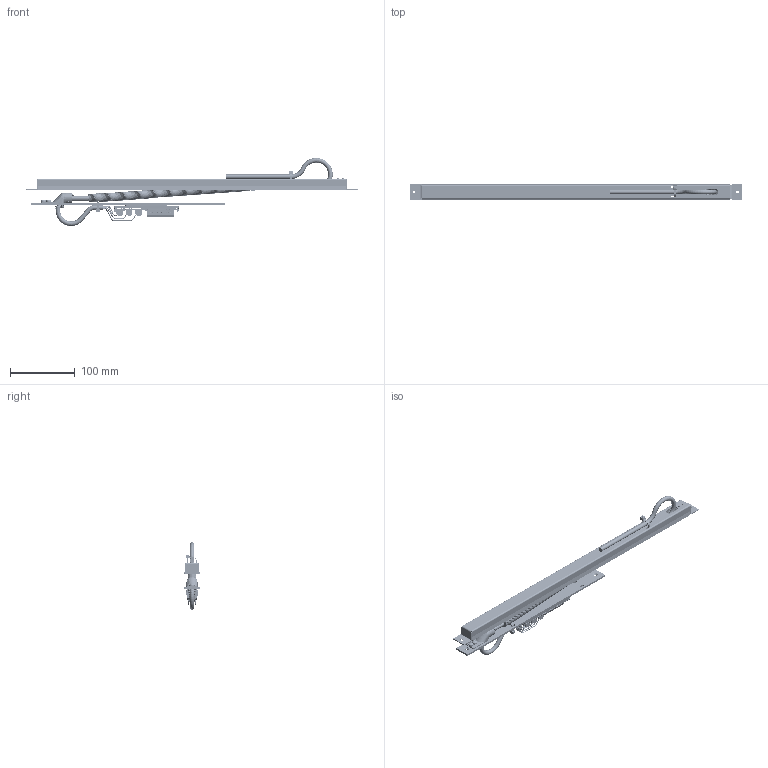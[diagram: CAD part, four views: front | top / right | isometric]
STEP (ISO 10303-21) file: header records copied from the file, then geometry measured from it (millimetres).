
FILE_DESCRIPTION((''),'2;1');
FILE_NAME('S:\Projekte\09-05_P_LINK_Kabeluebergang_M_14_91_[M_11_91]_trennbar\Zeichungen\Artikel\Endprodukt\M 15 91\M 15 91.stp','2013-06-27T14:14:53',('jsuarez'),(''),'Autodesk Inventor 2013','Autodesk Inventor 2013','');
FILE_SCHEMA(('AUTOMOTIVE_DESIGN { 1 0 10303 214 1 1 1 1 }'));
Length unit declared in the file: millimetre
Products named in the file (1): M 15 91
Bounding box: 511 x 24.03 x 104.67 mm (x, y, z)
Volume: 75342 mm3; surface area: 159889.9 mm2
Topology: 14 solids, 16 shells, 4049 faces, 10487 edges, 6738 vertices
Faces by surface type: plane 2432, bspline 918, cylinder 461, cone 98, torus 90, revolution 42, sphere 8
Full cylindrical faces by diameter (mm): 0.8 x12, 0.9 x12, 1 x24, 1.1 x12, 1.2 x12, 1.3 x24, 1.6 x12, 1.8 x14, 2 x44, 2.2 x18, 2.5 x12, 2.8 x12, 3 x24, 3.2 x12, 3.242 x4, 3.621 x4, 4 x4, 4.5 x4, 4.7 x2, 6 x2, 7 x6, 8.3 x2
Entity records: 183054 total; most frequent: CARTESIAN_POINT 86774, ORIENTED_EDGE 19870, DIRECTION 16868, EDGE_CURVE 9935, VERTEX_POINT 6594, AXIS2_PLACEMENT_3D 5803, VECTOR 5220, LINE 5220
